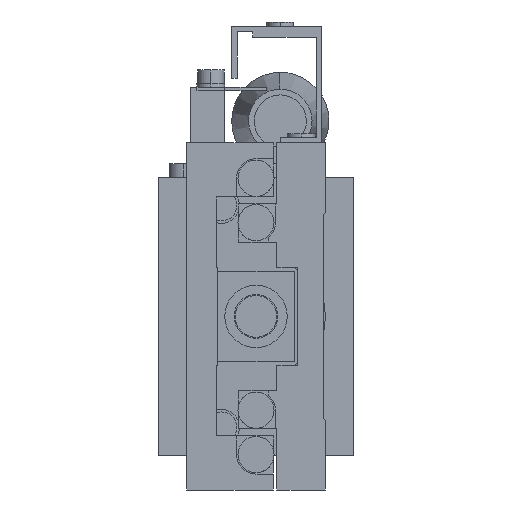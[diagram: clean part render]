
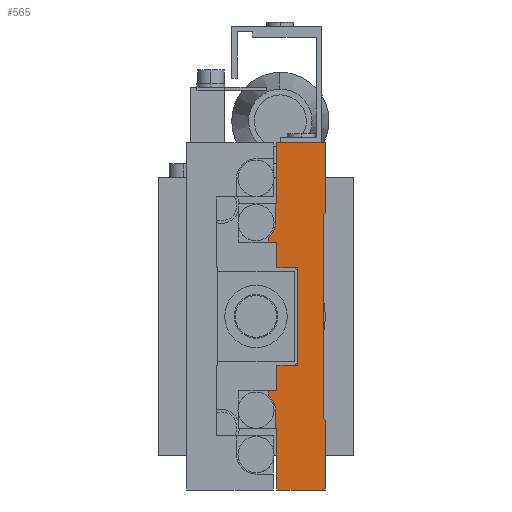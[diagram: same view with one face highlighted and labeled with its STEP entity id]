
A CAD part, left-side view. The second image highlights one B-rep face of the part: STEP entity #565.
In plain terms, the highlighted planar face has unit normal (-1, 0, 0).
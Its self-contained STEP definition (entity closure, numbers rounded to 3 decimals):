
#565=ADVANCED_FACE('',(#1541),#1542,.F.);
#1541=FACE_OUTER_BOUND('',#3026,.T.);
#1542=PLANE('',#3027);
#3026=EDGE_LOOP('',(#5955,#5956,#5957,#5958,#5959,#5960,#5961,#5962,#5963,#5964,#5965,#5966,#5967,#5968,#5969,#5970,#5971,#5972,#5973,#5974,#5975,#5976,#5977,#5978));
#3027=AXIS2_PLACEMENT_3D('',#5979,#5980,#5981);
#5955=ORIENTED_EDGE('',*,*,#10155,.T.);
#5956=ORIENTED_EDGE('',*,*,#10156,.T.);
#5957=ORIENTED_EDGE('',*,*,#10157,.T.);
#5958=ORIENTED_EDGE('',*,*,#10158,.F.);
#5959=ORIENTED_EDGE('',*,*,#10159,.F.);
#5960=ORIENTED_EDGE('',*,*,#10160,.F.);
#5961=ORIENTED_EDGE('',*,*,#10161,.F.);
#5962=ORIENTED_EDGE('',*,*,#10162,.F.);
#5963=ORIENTED_EDGE('',*,*,#10163,.F.);
#5964=ORIENTED_EDGE('',*,*,#10164,.F.);
#5965=ORIENTED_EDGE('',*,*,#10165,.F.);
#5966=ORIENTED_EDGE('',*,*,#10166,.F.);
#5967=ORIENTED_EDGE('',*,*,#10167,.F.);
#5968=ORIENTED_EDGE('',*,*,#10168,.F.);
#5969=ORIENTED_EDGE('',*,*,#10169,.T.);
#5970=ORIENTED_EDGE('',*,*,#10170,.T.);
#5971=ORIENTED_EDGE('',*,*,#10171,.T.);
#5972=ORIENTED_EDGE('',*,*,#10172,.F.);
#5973=ORIENTED_EDGE('',*,*,#10173,.F.);
#5974=ORIENTED_EDGE('',*,*,#10174,.F.);
#5975=ORIENTED_EDGE('',*,*,#10149,.F.);
#5976=ORIENTED_EDGE('',*,*,#10175,.F.);
#5977=ORIENTED_EDGE('',*,*,#10176,.F.);
#5978=ORIENTED_EDGE('',*,*,#10177,.F.);
#5979=CARTESIAN_POINT('',(-25.0,0.,0.0));
#5980=DIRECTION('',(1.0,0.0,0.0));
#5981=DIRECTION('',(0.0,1.0,0.0));
#10149=EDGE_CURVE('',#12305,#12306,#12307,.T.);
#10155=EDGE_CURVE('',#12316,#12317,#12318,.T.);
#10156=EDGE_CURVE('',#12317,#12319,#12320,.T.);
#10157=EDGE_CURVE('',#12319,#12321,#12322,.T.);
#10158=EDGE_CURVE('',#12323,#12321,#12324,.T.);
#10159=EDGE_CURVE('',#12325,#12323,#12326,.T.);
#10160=EDGE_CURVE('',#12327,#12325,#12328,.T.);
#10161=EDGE_CURVE('',#12329,#12327,#12330,.T.);
#10162=EDGE_CURVE('',#12331,#12329,#12332,.T.);
#10163=EDGE_CURVE('',#12333,#12331,#12334,.T.);
#10164=EDGE_CURVE('',#12335,#12333,#12336,.T.);
#10165=EDGE_CURVE('',#12337,#12335,#12338,.T.);
#10166=EDGE_CURVE('',#12339,#12337,#12340,.T.);
#10167=EDGE_CURVE('',#12341,#12339,#12342,.T.);
#10168=EDGE_CURVE('',#12343,#12341,#12344,.T.);
#10169=EDGE_CURVE('',#12343,#12345,#12346,.T.);
#10170=EDGE_CURVE('',#12345,#12347,#12348,.T.);
#10171=EDGE_CURVE('',#12347,#12349,#12350,.T.);
#10172=EDGE_CURVE('',#12351,#12349,#12352,.T.);
#10173=EDGE_CURVE('',#12353,#12351,#12354,.T.);
#10174=EDGE_CURVE('',#12306,#12353,#12355,.T.);
#10175=EDGE_CURVE('',#12356,#12305,#12357,.T.);
#10176=EDGE_CURVE('',#12358,#12356,#12359,.T.);
#10177=EDGE_CURVE('',#12316,#12358,#12360,.T.);
#12305=VERTEX_POINT('',#15537);
#12306=VERTEX_POINT('',#15538);
#12307=LINE('',#15539,#15540);
#12316=VERTEX_POINT('',#15552);
#12317=VERTEX_POINT('',#15553);
#12318=LINE('',#15554,#15555);
#12319=VERTEX_POINT('',#15556);
#12320=CIRCLE('',#15557,2.8);
#12321=VERTEX_POINT('',#15558);
#12322=LINE('',#15559,#15560);
#12323=VERTEX_POINT('',#15561);
#12324=LINE('',#15562,#15563);
#12325=VERTEX_POINT('',#15564);
#12326=LINE('',#15565,#15566);
#12327=VERTEX_POINT('',#15567);
#12328=LINE('',#15568,#15569);
#12329=VERTEX_POINT('',#15570);
#12330=LINE('',#15571,#15572);
#12331=VERTEX_POINT('',#15573);
#12332=LINE('',#15574,#15575);
#12333=VERTEX_POINT('',#15576);
#12334=LINE('',#15577,#15578);
#12335=VERTEX_POINT('',#15579);
#12336=LINE('',#15580,#15581);
#12337=VERTEX_POINT('',#15582);
#12338=LINE('',#15583,#15584);
#12339=VERTEX_POINT('',#15585);
#12340=LINE('',#15586,#15587);
#12341=VERTEX_POINT('',#15588);
#12342=LINE('',#15589,#15590);
#12343=VERTEX_POINT('',#15591);
#12344=LINE('',#15592,#15593);
#12345=VERTEX_POINT('',#15594);
#12346=LINE('',#15595,#15596);
#12347=VERTEX_POINT('',#15597);
#12348=CIRCLE('',#15598,2.8);
#12349=VERTEX_POINT('',#15599);
#12350=LINE('',#15600,#15601);
#12351=VERTEX_POINT('',#15602);
#12352=LINE('',#15603,#15604);
#12353=VERTEX_POINT('',#15605);
#12354=LINE('',#15606,#15607);
#12355=LINE('',#15608,#15609);
#12356=VERTEX_POINT('',#15610);
#12357=LINE('',#15611,#15612);
#12358=VERTEX_POINT('',#15613);
#12359=LINE('',#15614,#15615);
#12360=LINE('',#15616,#15617);
#15537=CARTESIAN_POINT('',(-25.0,4.0,-7.0));
#15538=CARTESIAN_POINT('',(-25.0,4.0,7.0));
#15539=CARTESIAN_POINT('',(-25.0,4.0,-7.0));
#15540=VECTOR('',#19217,1000.0);
#15552=CARTESIAN_POINT('',(-25.0,8.2,-10.7));
#15553=CARTESIAN_POINT('',(-25.0,8.2,-11.355));
#15554=CARTESIAN_POINT('',(-25.0,8.2,-10.7));
#15555=VECTOR('',#19227,1000.0);
#15556=CARTESIAN_POINT('',(-25.0,7.2,-13.5));
#15557=AXIS2_PLACEMENT_3D('',#19228,#19229,#19230);
#15558=CARTESIAN_POINT('',(-25.0,7.2,-16.2));
#15559=CARTESIAN_POINT('',(-25.0,7.2,-13.5));
#15560=VECTOR('',#19231,1000.0);
#15561=CARTESIAN_POINT('',(-25.0,7.0,-16.2));
#15562=CARTESIAN_POINT('',(-25.0,7.0,-16.2));
#15563=VECTOR('',#19232,1000.0);
#15564=CARTESIAN_POINT('',(-25.0,7.0,-25.0));
#15565=CARTESIAN_POINT('',(-25.0,7.0,-25.0));
#15566=VECTOR('',#19233,1000.0);
#15567=CARTESIAN_POINT('',(-25.0,0.,-25.0));
#15568=CARTESIAN_POINT('',(-25.0,0.,-25.0));
#15569=VECTOR('',#19234,1000.0);
#15570=CARTESIAN_POINT('',(-25.0,0.,-15.0));
#15571=CARTESIAN_POINT('',(-25.0,0.,-15.0));
#15572=VECTOR('',#19235,1000.0);
#15573=CARTESIAN_POINT('',(-25.0,0.35,-14.65));
#15574=CARTESIAN_POINT('',(-25.0,0.35,-14.65));
#15575=VECTOR('',#19236,1000.0);
#15576=CARTESIAN_POINT('',(-25.0,0.35,14.65));
#15577=CARTESIAN_POINT('',(-25.0,0.35,14.65));
#15578=VECTOR('',#19237,1000.0);
#15579=CARTESIAN_POINT('',(-25.0,0.,15.0));
#15580=CARTESIAN_POINT('',(-25.0,0.,15.0));
#15581=VECTOR('',#19238,1000.0);
#15582=CARTESIAN_POINT('',(-25.0,0.,25.0));
#15583=CARTESIAN_POINT('',(-25.0,0.,25.0));
#15584=VECTOR('',#19239,1000.0);
#15585=CARTESIAN_POINT('',(-25.0,7.0,25.0));
#15586=CARTESIAN_POINT('',(-25.0,7.0,25.0));
#15587=VECTOR('',#19240,1000.0);
#15588=CARTESIAN_POINT('',(-25.0,7.0,16.2));
#15589=CARTESIAN_POINT('',(-25.0,7.0,16.2));
#15590=VECTOR('',#19241,1000.0);
#15591=CARTESIAN_POINT('',(-25.0,7.2,16.2));
#15592=CARTESIAN_POINT('',(-25.0,12.5,16.2));
#15593=VECTOR('',#19242,1000.0);
#15594=CARTESIAN_POINT('',(-25.0,7.2,13.5));
#15595=CARTESIAN_POINT('',(-25.0,7.2,16.2));
#15596=VECTOR('',#19243,1000.0);
#15597=CARTESIAN_POINT('',(-25.0,8.2,11.355));
#15598=AXIS2_PLACEMENT_3D('',#19244,#19245,#19246);
#15599=CARTESIAN_POINT('',(-25.0,8.2,10.7));
#15600=CARTESIAN_POINT('',(-25.0,8.2,11.355));
#15601=VECTOR('',#19247,1000.0);
#15602=CARTESIAN_POINT('',(-25.0,7.0,10.7));
#15603=CARTESIAN_POINT('',(-25.0,7.0,10.7));
#15604=VECTOR('',#19248,1000.0);
#15605=CARTESIAN_POINT('',(-25.0,7.0,7.0));
#15606=CARTESIAN_POINT('',(-25.0,7.0,7.0));
#15607=VECTOR('',#19249,1000.0);
#15608=CARTESIAN_POINT('',(-25.0,4.0,7.0));
#15609=VECTOR('',#19250,1000.0);
#15610=CARTESIAN_POINT('',(-25.0,7.0,-7.0));
#15611=CARTESIAN_POINT('',(-25.0,7.0,-7.0));
#15612=VECTOR('',#19251,1000.0);
#15613=CARTESIAN_POINT('',(-25.0,7.0,-10.7));
#15614=CARTESIAN_POINT('',(-25.0,7.0,-10.7));
#15615=VECTOR('',#19252,1000.0);
#15616=CARTESIAN_POINT('',(-25.0,12.5,-10.7));
#15617=VECTOR('',#19253,1000.0);
#19217=DIRECTION('',(0.0,0.0,1.0));
#19227=DIRECTION('',(0.0,0.0,-1.0));
#19228=CARTESIAN_POINT('',(-25.0,10.0,-13.5));
#19229=DIRECTION('',(1.0,0.0,0.0));
#19230=DIRECTION('',(0.0,0.0,-1.0));
#19231=DIRECTION('',(0.0,0.0,-1.0));
#19232=DIRECTION('',(0.0,1.0,0.0));
#19233=DIRECTION('',(0.0,0.,1.0));
#19234=DIRECTION('',(0.0,1.0,0.0));
#19235=DIRECTION('',(0.0,0.0,-1.0));
#19236=DIRECTION('',(0.0,-0.707,-0.707));
#19237=DIRECTION('',(0.0,0.0,-1.0));
#19238=DIRECTION('',(0.0,0.707,-0.707));
#19239=DIRECTION('',(0.0,0.0,-1.0));
#19240=DIRECTION('',(0.0,-1.0,0.0));
#19241=DIRECTION('',(0.0,0.,1.0));
#19242=DIRECTION('',(0.0,-1.0,0.0));
#19243=DIRECTION('',(0.0,0.0,-1.0));
#19244=CARTESIAN_POINT('',(-25.0,10.0,13.5));
#19245=DIRECTION('',(1.0,0.0,0.0));
#19246=DIRECTION('',(0.0,0.0,-1.0));
#19247=DIRECTION('',(0.0,0.0,-1.0));
#19248=DIRECTION('',(0.0,1.0,0.0));
#19249=DIRECTION('',(0.0,0.0,1.0));
#19250=DIRECTION('',(0.0,1.0,0.));
#19251=DIRECTION('',(0.0,-1.0,0.));
#19252=DIRECTION('',(0.0,0.0,1.0));
#19253=DIRECTION('',(0.0,-1.0,0.0));
